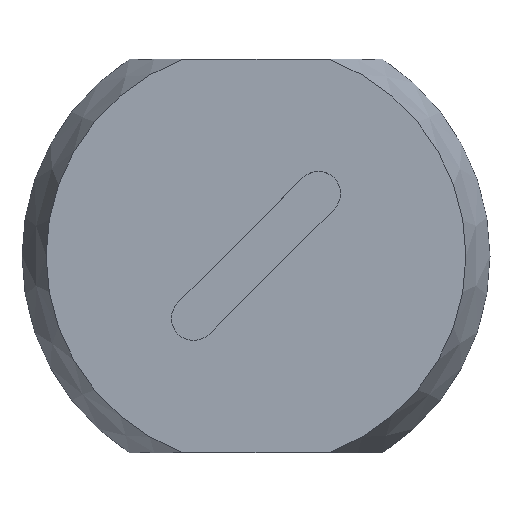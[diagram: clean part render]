
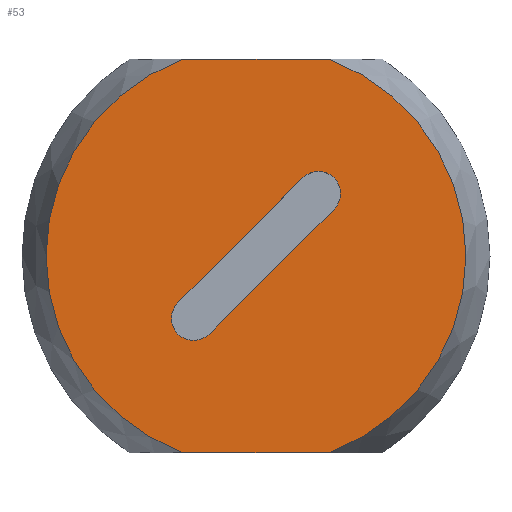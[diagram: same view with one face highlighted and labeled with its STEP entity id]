
A CAD part, top view. The second image highlights one B-rep face of the part: STEP entity #53.
In plain terms, the highlighted planar face has unit normal (0, 0, 1).
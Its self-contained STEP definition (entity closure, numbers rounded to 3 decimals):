
#53=ADVANCED_FACE('',(#74,#75),#66,.F.);
#66=PLANE('',#231);
#74=FACE_BOUND('',#80,.T.);
#75=FACE_BOUND('',#81,.T.);
#80=EDGE_LOOP('',(#106,#107,#108,#109));
#81=EDGE_LOOP('',(#110,#111,#112,#113));
#96=CIRCLE('',#227,9.5);
#97=CIRCLE('',#228,9.5);
#98=CIRCLE('',#229,1.);
#99=CIRCLE('',#230,1.);
#106=ORIENTED_EDGE('',*,*,#176,.F.);
#107=ORIENTED_EDGE('',*,*,#177,.F.);
#108=ORIENTED_EDGE('',*,*,#178,.F.);
#109=ORIENTED_EDGE('',*,*,#179,.F.);
#110=ORIENTED_EDGE('',*,*,#180,.T.);
#111=ORIENTED_EDGE('',*,*,#181,.T.);
#112=ORIENTED_EDGE('',*,*,#182,.T.);
#113=ORIENTED_EDGE('',*,*,#183,.T.);
#158=VERTEX_POINT('',#312);
#159=VERTEX_POINT('',#313);
#160=VERTEX_POINT('',#315);
#161=VERTEX_POINT('',#317);
#162=VERTEX_POINT('',#320);
#163=VERTEX_POINT('',#321);
#164=VERTEX_POINT('',#323);
#165=VERTEX_POINT('',#325);
#176=EDGE_CURVE('',#158,#159,#202,.T.);
#177=EDGE_CURVE('',#160,#158,#96,.T.);
#178=EDGE_CURVE('',#161,#160,#203,.T.);
#179=EDGE_CURVE('',#159,#161,#97,.T.);
#180=EDGE_CURVE('',#162,#163,#98,.T.);
#181=EDGE_CURVE('',#163,#164,#204,.T.);
#182=EDGE_CURVE('',#164,#165,#99,.T.);
#183=EDGE_CURVE('',#165,#162,#205,.T.);
#202=LINE('',#311,#214);
#203=LINE('',#316,#215);
#204=LINE('',#322,#216);
#205=LINE('',#326,#217);
#214=VECTOR('',#252,1.);
#215=VECTOR('',#255,1.);
#216=VECTOR('',#260,1.);
#217=VECTOR('',#263,1.);
#227=AXIS2_PLACEMENT_3D('',#314,#253,#254);
#228=AXIS2_PLACEMENT_3D('',#318,#256,#257);
#229=AXIS2_PLACEMENT_3D('',#319,#258,#259);
#230=AXIS2_PLACEMENT_3D('',#324,#261,#262);
#231=AXIS2_PLACEMENT_3D('',#327,#264,#265);
#252=DIRECTION('',(-1.,0.,0.));
#253=DIRECTION('',(0.,0.,-1.));
#254=DIRECTION('',(-1.,0.,0.));
#255=DIRECTION('',(1.,0.,0.));
#256=DIRECTION('',(0.,0.,-1.));
#257=DIRECTION('',(-1.,0.,0.));
#258=DIRECTION('',(0.,0.,-1.));
#259=DIRECTION('',(-1.,0.,0.));
#260=DIRECTION('',(0.707,0.707,0.));
#261=DIRECTION('',(0.,0.,-1.));
#262=DIRECTION('',(-1.,0.,0.));
#263=DIRECTION('',(-0.707,-0.707,0.));
#264=DIRECTION('',(0.,0.,-1.));
#265=DIRECTION('',(-1.,0.,0.));
#311=CARTESIAN_POINT('',(10.592,-8.9,0.));
#312=CARTESIAN_POINT('',(3.323,-8.9,0.));
#313=CARTESIAN_POINT('',(-3.323,-8.9,0.));
#314=CARTESIAN_POINT('',(0.,0.,0.));
#315=CARTESIAN_POINT('',(3.323,8.9,0.));
#316=CARTESIAN_POINT('',(-10.592,8.9,0.));
#317=CARTESIAN_POINT('',(-3.323,8.9,0.));
#318=CARTESIAN_POINT('',(0.,0.,0.));
#319=CARTESIAN_POINT('',(-2.828,-2.828,0.));
#320=CARTESIAN_POINT('',(-2.121,-3.536,0.));
#321=CARTESIAN_POINT('',(-3.536,-2.121,0.));
#322=CARTESIAN_POINT('',(-4.243,-2.828,0.));
#323=CARTESIAN_POINT('',(2.121,3.536,0.));
#324=CARTESIAN_POINT('',(2.828,2.828,0.));
#325=CARTESIAN_POINT('',(3.536,2.121,0.));
#326=CARTESIAN_POINT('',(4.243,2.828,0.));
#327=CARTESIAN_POINT('',(0.,0.,0.));
